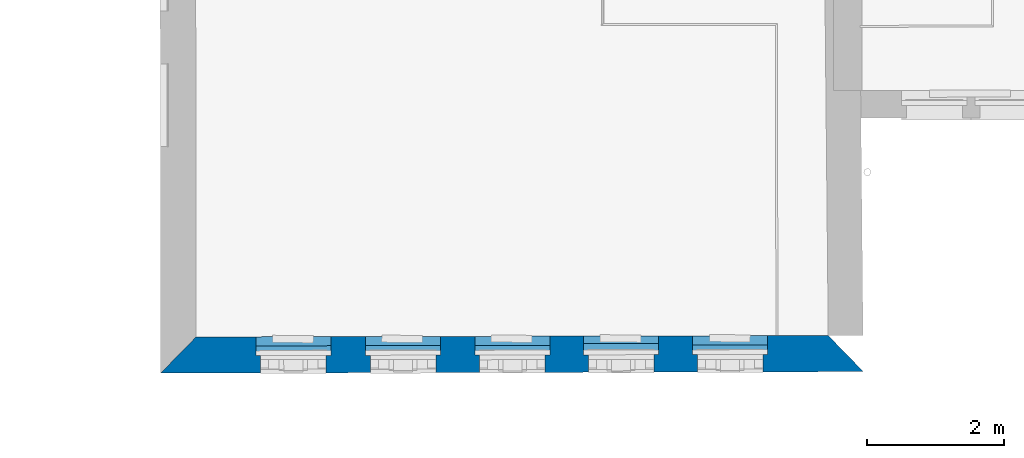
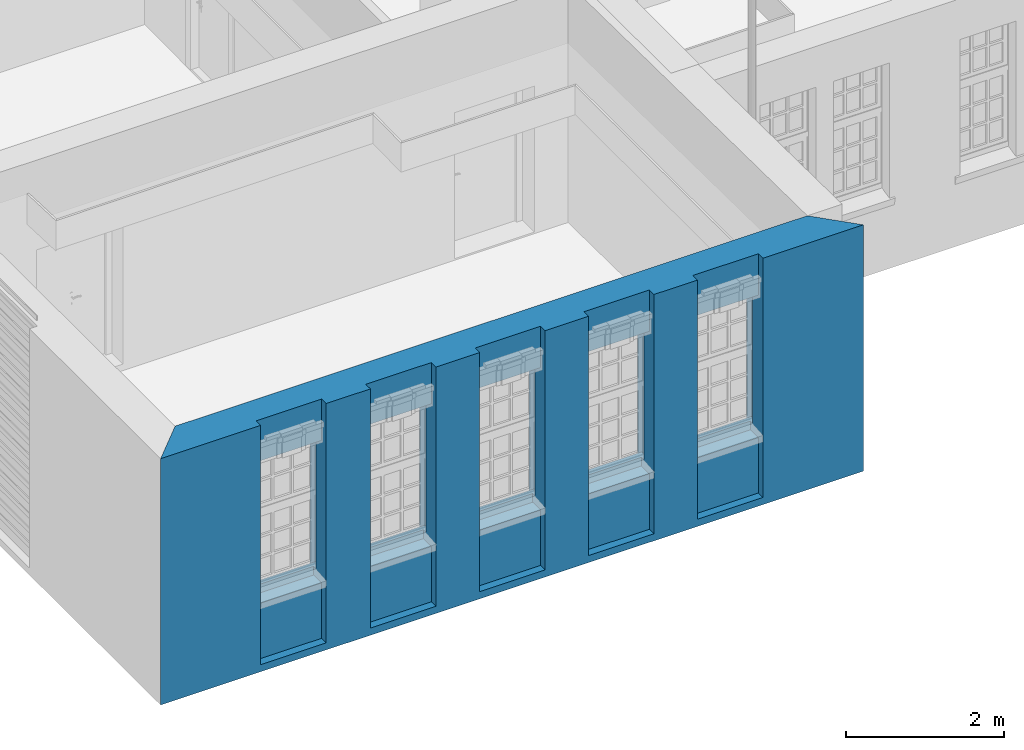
# One storey, part 17 of 158: 1 wall, 15 openings.
"""IFC2X3 building model written with IfcOpenShell, lengths in metres."""

from ifc_helpers import new_model, entity, si_unit, converted_unit, derived_unit, money_unit, direction, frame, origin_with_axes, origin_2d_with_axis, place, context, subcontext, project, spatial, polyline, rectangle, outline, extrude, material, layer, layer_set, layer_usage, type_object, element, save


model = new_model("IFC2X3")

# Units and contexts
model_context = context("Model", 3, precision=1e-05, world=origin_with_axes(), true_north=direction((0.0, 1.0)))
body_context = subcontext(model_context, "Body", "Model", "MODEL_VIEW")
ifc_project = project(units=[si_unit("LENGTHUNIT", "METRE"), si_unit("AREAUNIT", "SQUARE_METRE"), si_unit("VOLUMEUNIT", "CUBIC_METRE"), converted_unit("PLANEANGLEUNIT", "DEGREE", entity("IfcPlaneAngleMeasure", 0.0174532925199), si_unit("PLANEANGLEUNIT", "RADIAN"), dimensions=[0, 0, 0, 0, 0, 0, 0]), money_unit("EUR"), converted_unit("TIMEUNIT", "Year", entity("IfcTimeMeasure", 31556926.0), si_unit("TIMEUNIT", "SECOND"), dimensions=[0, 0, 1, 0, 0, 0, 0]), si_unit("MASSUNIT", "GRAM", prefix="KILO"), si_unit("THERMODYNAMICTEMPERATUREUNIT", "DEGREE_CELSIUS"), si_unit("LUMINOUSINTENSITYUNIT", "LUMEN"), si_unit("ENERGYUNIT", "JOULE", prefix="MEGA"), derived_unit("THERMALCONDUCTANCEUNIT", [(si_unit("POWERUNIT", "WATT"), 1), (si_unit("LENGTHUNIT", "METRE"), -1), (si_unit("THERMODYNAMICTEMPERATUREUNIT", "KELVIN"), -1)]), derived_unit("SPECIFICHEATCAPACITYUNIT", [(si_unit("ENERGYUNIT", "JOULE"), 1), (si_unit("MASSUNIT", "GRAM", prefix="KILO"), -1), (si_unit("THERMODYNAMICTEMPERATUREUNIT", "KELVIN"), -1)]), derived_unit("MASSDENSITYUNIT", [(si_unit("MASSUNIT", "GRAM", prefix="KILO"), 1), (si_unit("VOLUMEUNIT", "CUBIC_METRE"), -1)])], contexts=[model_context])

# Site, building, storey
site_placement = place(None, origin_with_axes())
site = spatial("IfcSite", under=ifc_project, at=site_placement, Name="Gelände", CompositionType="ELEMENT")
building_placement = place(site_placement, origin_with_axes())
building = spatial("IfcBuilding", under=site, at=building_placement, Name="Gebäude", CompositionType="ELEMENT")
storey_placement = place(building_placement, origin_with_axes())
storey = spatial("IfcBuildingStorey", under=building, at=storey_placement, Name="ERDGESCHOSS", CompositionType="ELEMENT", Elevation=0.0)

# Wall, openings
ifc_material = material(Name="05_ALLGEMEIN - TRAGENDE BAUTEILE")
ifc_layer = layer(ifc_material, 0.53, ventilated="UNKNOWN")
ifc_layer_set = layer_set([ifc_layer], Name="05_ALLGEMEIN - TRAGENDE BAUTEILE 0.53")
ifc_layer_usage = layer_usage(ifc_layer_set, "AXIS2", "NEGATIVE", 0.53)
wall_type = type_object("IfcWallType", Name="05_ALLGEMEIN - TRAGENDE BAUTEILE 530", PredefinedType="ELEMENTEDWALL")
wall_placement = place(storey_placement, frame((-28.0502552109, 6.26018030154, -0.21), z_axis=(0.0, 0.0, 1.0), x_axis=(0.999997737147, 0.00212736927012, 0.0)))
wall = element("IfcWallStandardCase", 1, at=wall_placement, inside=storey, type_object=wall_type, material=ifc_layer_usage, Name="Wand-028", ObjectType="ELEMENTEDWALL", context=body_context, shape_type="SweptSolid", body=[
    extrude(outline(polyline([(0.0, 0.0), (10.2949874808, 0.0), (9.78094863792, 0.53), (0.520632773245, 0.53), (0.0, 0.0)])), origin_with_axes(), (0.0, 0.0, 1.0), 3.81),
])
opening_1_placement = place(wall_placement, frame((8.34167652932, 0.0, 1.100846), z_axis=(0.0, 0.0, 1.0), x_axis=(1.0, 0.0, 0.0)))
element("IfcOpeningElement", 2, at=opening_1_placement, cuts=wall, Name="Fenster-015", context=body_context, shape_type="SweptSolid", body=[
    extrude(rectangle(XDim=1.1, YDim=2.14, at=origin_2d_with_axis()), frame((0.0, 0.255, 1.07), z_axis=(0.0, -1.0, 0.0), x_axis=(1.0, 0.0, 0.0)), (0.0, 0.0, -1.0), 0.805),
    extrude(rectangle(XDim=0.96, YDim=2.07, at=origin_2d_with_axis()), frame((0.0, 0.255, 1.035), z_axis=(0.0, 1.0, 0.0), x_axis=(1.0, 0.0, 0.0)), (0.0, 0.0, -1.0), 0.785),
    extrude(rectangle(XDim=0.96, YDim=0.134479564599, at=origin_2d_with_axis()), frame((0.0, 0.316042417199, -0.0672397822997), z_axis=(0.0, 1.0, 0.0), x_axis=(1.0, 0.0, 0.0)), (0.0, 0.0, -1.0), 0.591042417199),
])
opening_2_placement = place(wall_placement, frame((8.34167652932, 0.0, 0.11), z_axis=(0.0, 0.0, 1.0), x_axis=(1.0, 0.0, 0.0)))
element("IfcOpeningElement", 3, at=opening_2_placement, cuts=wall, Name="Fenster-015", ObjectType="Recess", context=body_context, shape_type="SweptSolid", body=[
    extrude(rectangle(XDim=0.96, YDim=3.7, at=origin_2d_with_axis()), frame((0.0, 0.11528824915, 1.85), z_axis=(0.0, 1.0, 0.0), x_axis=(1.0, 0.0, 0.0)), (0.0, 0.0, -1.0), 0.64528824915),
])
opening_3_placement = place(wall_placement, frame((6.74645158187, 0.0, 1.100846), z_axis=(0.0, 0.0, 1.0), x_axis=(1.0, 0.0, 0.0)))
element("IfcOpeningElement", 4, at=opening_3_placement, cuts=wall, Name="Fenster-015", context=body_context, shape_type="SweptSolid", body=[
    extrude(rectangle(XDim=1.1, YDim=2.14, at=origin_2d_with_axis()), frame((0.0, 0.255, 1.07), z_axis=(0.0, -1.0, 0.0), x_axis=(1.0, 0.0, 0.0)), (0.0, 0.0, -1.0), 0.805),
    extrude(rectangle(XDim=0.96, YDim=2.07, at=origin_2d_with_axis()), frame((0.0, 0.255, 1.035), z_axis=(0.0, 1.0, 0.0), x_axis=(1.0, 0.0, 0.0)), (0.0, 0.0, -1.0), 0.785),
    extrude(rectangle(XDim=0.96, YDim=0.134479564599, at=origin_2d_with_axis()), frame((0.0, 0.316042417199, -0.0672397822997), z_axis=(0.0, 1.0, 0.0), x_axis=(1.0, 0.0, 0.0)), (0.0, 0.0, -1.0), 0.591042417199),
])
opening_4_placement = place(wall_placement, frame((6.74645158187, 0.0, 0.11), z_axis=(0.0, 0.0, 1.0), x_axis=(1.0, 0.0, 0.0)))
element("IfcOpeningElement", 5, at=opening_4_placement, cuts=wall, Name="Fenster-015", ObjectType="Recess", context=body_context, shape_type="SweptSolid", body=[
    extrude(rectangle(XDim=0.96, YDim=3.7, at=origin_2d_with_axis()), frame((0.0, 0.11528824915, 1.85), z_axis=(0.0, 1.0, 0.0), x_axis=(1.0, 0.0, 0.0)), (0.0, 0.0, -1.0), 0.64528824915),
])
opening_5_placement = place(wall_placement, frame((5.15381391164, 0.0, 1.100846), z_axis=(0.0, 0.0, 1.0), x_axis=(1.0, 0.0, 0.0)))
element("IfcOpeningElement", 6, at=opening_5_placement, cuts=wall, Name="Fenster-015", context=body_context, shape_type="SweptSolid", body=[
    extrude(rectangle(XDim=1.1, YDim=2.14, at=origin_2d_with_axis()), frame((0.0, 0.255, 1.07), z_axis=(0.0, -1.0, 0.0), x_axis=(1.0, 0.0, 0.0)), (0.0, 0.0, -1.0), 0.805),
    extrude(rectangle(XDim=0.96, YDim=2.07, at=origin_2d_with_axis()), frame((0.0, 0.255, 1.035), z_axis=(0.0, 1.0, 0.0), x_axis=(1.0, 0.0, 0.0)), (0.0, 0.0, -1.0), 0.785),
    extrude(rectangle(XDim=0.96, YDim=0.134479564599, at=origin_2d_with_axis()), frame((0.0, 0.316042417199, -0.0672397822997), z_axis=(0.0, 1.0, 0.0), x_axis=(1.0, 0.0, 0.0)), (0.0, 0.0, -1.0), 0.591042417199),
])
opening_6_placement = place(wall_placement, frame((5.15381391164, 0.0, 0.11), z_axis=(0.0, 0.0, 1.0), x_axis=(1.0, 0.0, 0.0)))
element("IfcOpeningElement", 7, at=opening_6_placement, cuts=wall, Name="Fenster-015", ObjectType="Recess", context=body_context, shape_type="SweptSolid", body=[
    extrude(rectangle(XDim=0.96, YDim=3.7, at=origin_2d_with_axis()), frame((0.0, 0.11528824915, 1.85), z_axis=(0.0, 1.0, 0.0), x_axis=(1.0, 0.0, 0.0)), (0.0, 0.0, -1.0), 0.64528824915),
])
opening_7_placement = place(wall_placement, frame((3.55329606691, 0.0, 1.100846), z_axis=(0.0, 0.0, 1.0), x_axis=(1.0, 0.0, 0.0)))
element("IfcOpeningElement", 8, at=opening_7_placement, cuts=wall, Name="Fenster-015", context=body_context, shape_type="SweptSolid", body=[
    extrude(rectangle(XDim=1.1, YDim=2.14, at=origin_2d_with_axis()), frame((0.0, 0.255, 1.07), z_axis=(0.0, -1.0, 0.0), x_axis=(1.0, 0.0, 0.0)), (0.0, 0.0, -1.0), 0.805),
    extrude(rectangle(XDim=0.96, YDim=2.07, at=origin_2d_with_axis()), frame((0.0, 0.255, 1.035), z_axis=(0.0, 1.0, 0.0), x_axis=(1.0, 0.0, 0.0)), (0.0, 0.0, -1.0), 0.785),
    extrude(rectangle(XDim=0.96, YDim=0.134479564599, at=origin_2d_with_axis()), frame((0.0, 0.316042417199, -0.0672397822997), z_axis=(0.0, 1.0, 0.0), x_axis=(1.0, 0.0, 0.0)), (0.0, 0.0, -1.0), 0.591042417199),
])
opening_8_placement = place(wall_placement, frame((3.55329606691, 0.0, 0.11), z_axis=(0.0, 0.0, 1.0), x_axis=(1.0, 0.0, 0.0)))
element("IfcOpeningElement", 9, at=opening_8_placement, cuts=wall, Name="Fenster-015", ObjectType="Recess", context=body_context, shape_type="SweptSolid", body=[
    extrude(rectangle(XDim=0.96, YDim=3.7, at=origin_2d_with_axis()), frame((0.0, 0.11528824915, 1.85), z_axis=(0.0, 1.0, 0.0), x_axis=(1.0, 0.0, 0.0)), (0.0, 0.0, -1.0), 0.64528824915),
])
opening_9_placement = place(wall_placement, frame((1.94552281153, 0.0, 1.100846), z_axis=(0.0, 0.0, 1.0), x_axis=(1.0, 0.0, 0.0)))
element("IfcOpeningElement", 10, at=opening_9_placement, cuts=wall, Name="Fenster-015", context=body_context, shape_type="SweptSolid", body=[
    extrude(rectangle(XDim=1.1, YDim=2.14, at=origin_2d_with_axis()), frame((0.0, 0.255, 1.07), z_axis=(0.0, -1.0, 0.0), x_axis=(1.0, 0.0, 0.0)), (0.0, 0.0, -1.0), 0.805),
    extrude(rectangle(XDim=0.96, YDim=2.07, at=origin_2d_with_axis()), frame((0.0, 0.255, 1.035), z_axis=(0.0, 1.0, 0.0), x_axis=(1.0, 0.0, 0.0)), (0.0, 0.0, -1.0), 0.785),
    extrude(rectangle(XDim=0.96, YDim=0.134479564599, at=origin_2d_with_axis()), frame((0.0, 0.316042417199, -0.0672397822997), z_axis=(0.0, 1.0, 0.0), x_axis=(1.0, 0.0, 0.0)), (0.0, 0.0, -1.0), 0.591042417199),
])
opening_10_placement = place(wall_placement, frame((1.94552281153, 0.0, 0.11), z_axis=(0.0, 0.0, 1.0), x_axis=(1.0, 0.0, 0.0)))
element("IfcOpeningElement", 11, at=opening_10_placement, cuts=wall, Name="Fenster-015", ObjectType="Recess", context=body_context, shape_type="SweptSolid", body=[
    extrude(rectangle(XDim=0.96, YDim=3.7, at=origin_2d_with_axis()), frame((0.0, 0.11528824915, 1.85), z_axis=(0.0, 1.0, 0.0), x_axis=(1.0, 0.0, 0.0)), (0.0, 0.0, -1.0), 0.64528824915),
])
opening_11_placement = place(wall_placement, frame((1.94552281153, 0.0, 0.1), z_axis=(0.0, 0.0, 1.0), x_axis=(1.0, 0.0, 0.0)))
element("IfcOpeningElement", 12, at=opening_11_placement, cuts=wall, Name="Fenster-016", ObjectType="Recess", context=body_context, shape_type="SweptSolid", body=[
    extrude(rectangle(XDim=1.1, YDim=1.000846, at=origin_2d_with_axis()), frame((0.0, 0.396136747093, 0.500423), z_axis=(0.0, -1.0, 0.0), x_axis=(1.0, 0.0, 0.0)), (0.0, 0.0, -1.0), 0.663863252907),
])
opening_12_placement = place(wall_placement, frame((3.55329606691, 0.0, 0.1), z_axis=(0.0, 0.0, 1.0), x_axis=(1.0, 0.0, 0.0)))
element("IfcOpeningElement", 13, at=opening_12_placement, cuts=wall, Name="Fenster-016", ObjectType="Recess", context=body_context, shape_type="SweptSolid", body=[
    extrude(rectangle(XDim=1.1, YDim=1.000846, at=origin_2d_with_axis()), frame((0.0, 0.396136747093, 0.500423), z_axis=(0.0, -1.0, 0.0), x_axis=(1.0, 0.0, 0.0)), (0.0, 0.0, -1.0), 0.663863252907),
])
opening_13_placement = place(wall_placement, frame((5.15381391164, 0.0, 0.1), z_axis=(0.0, 0.0, 1.0), x_axis=(1.0, 0.0, 0.0)))
element("IfcOpeningElement", 14, at=opening_13_placement, cuts=wall, Name="Fenster-016", ObjectType="Recess", context=body_context, shape_type="SweptSolid", body=[
    extrude(rectangle(XDim=1.1, YDim=1.000846, at=origin_2d_with_axis()), frame((0.0, 0.396136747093, 0.500423), z_axis=(0.0, -1.0, 0.0), x_axis=(1.0, 0.0, 0.0)), (0.0, 0.0, -1.0), 0.663863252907),
])
opening_14_placement = place(wall_placement, frame((6.74645158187, 0.0, 0.1), z_axis=(0.0, 0.0, 1.0), x_axis=(1.0, 0.0, 0.0)))
element("IfcOpeningElement", 15, at=opening_14_placement, cuts=wall, Name="Fenster-016", ObjectType="Recess", context=body_context, shape_type="SweptSolid", body=[
    extrude(rectangle(XDim=1.1, YDim=1.000846, at=origin_2d_with_axis()), frame((0.0, 0.418366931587, 0.500423), z_axis=(0.0, -1.0, 0.0), x_axis=(1.0, 0.0, 0.0)), (0.0, 0.0, -1.0), 0.641633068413),
])
opening_15_placement = place(wall_placement, frame((8.34167652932, 0.0, 0.1), z_axis=(0.0, 0.0, 1.0), x_axis=(1.0, 0.0, 0.0)))
element("IfcOpeningElement", 16, at=opening_15_placement, cuts=wall, Name="Fenster-016", ObjectType="Recess", context=body_context, shape_type="SweptSolid", body=[
    extrude(rectangle(XDim=1.1, YDim=1.000846, at=origin_2d_with_axis()), frame((0.0, 0.396136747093, 0.500423), z_axis=(0.0, -1.0, 0.0), x_axis=(1.0, 0.0, 0.0)), (0.0, 0.0, -1.0), 0.663863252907),
])

save(model, "model.ifc")
